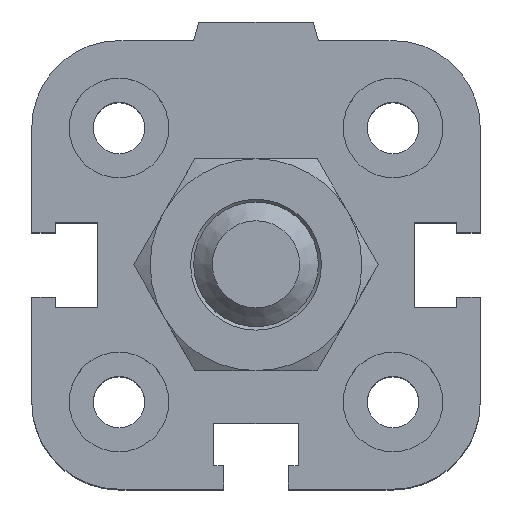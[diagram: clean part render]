
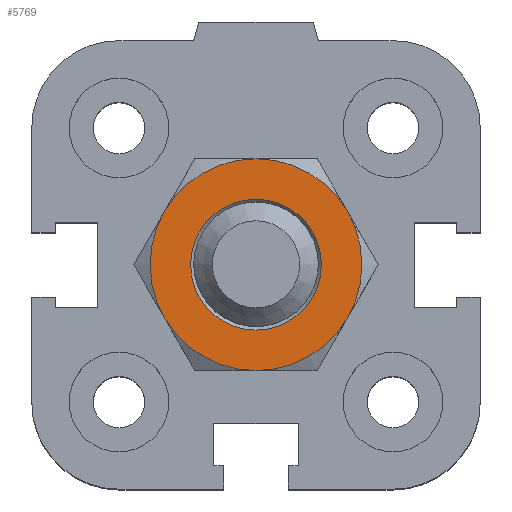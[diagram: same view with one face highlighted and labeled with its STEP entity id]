
A CAD part, top view. The second image highlights one B-rep face of the part: STEP entity #5769.
In plain terms, the highlighted planar face has unit normal (0, 0, 1).
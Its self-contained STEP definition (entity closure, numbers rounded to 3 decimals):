
#5335=CARTESIAN_POINT('',(7.361,4.25,6.));
#5336=VERTEX_POINT('',#5335);
#5350=CARTESIAN_POINT('',(0.,8.5,6.));
#5351=VERTEX_POINT('',#5350);
#5365=CARTESIAN_POINT('',(0.0,0.0,6.));
#5366=DIRECTION('',(0.0,0.0,1.));
#5367=DIRECTION('',(-0.866,-0.5,0.0));
#5368=AXIS2_PLACEMENT_3D('',#5365,#5366,#5367);
#5369=CIRCLE('',#5368,8.5);
#5370=EDGE_CURVE('',#5336,#5351,#5369,.T.);
#5382=CARTESIAN_POINT('',(7.361,-4.25,6.));
#5383=VERTEX_POINT('',#5382);
#5410=CARTESIAN_POINT('',(0.0,0.0,6.));
#5411=DIRECTION('',(0.0,0.0,1.));
#5412=DIRECTION('',(-0.866,-0.5,0.0));
#5413=AXIS2_PLACEMENT_3D('',#5410,#5411,#5412);
#5414=CIRCLE('',#5413,8.5);
#5415=EDGE_CURVE('',#5383,#5336,#5414,.T.);
#5427=CARTESIAN_POINT('',(0.,-8.5,6.));
#5428=VERTEX_POINT('',#5427);
#5455=CARTESIAN_POINT('',(0.0,0.0,6.));
#5456=DIRECTION('',(0.0,0.0,1.));
#5457=DIRECTION('',(-0.866,-0.5,0.0));
#5458=AXIS2_PLACEMENT_3D('',#5455,#5456,#5457);
#5459=CIRCLE('',#5458,8.5);
#5460=EDGE_CURVE('',#5428,#5383,#5459,.T.);
#5485=CARTESIAN_POINT('',(-7.361,-4.25,6.));
#5486=VERTEX_POINT('',#5485);
#5487=CARTESIAN_POINT('',(0.0,0.0,6.));
#5488=DIRECTION('',(0.0,0.0,1.));
#5489=DIRECTION('',(-0.866,-0.5,0.0));
#5490=AXIS2_PLACEMENT_3D('',#5487,#5488,#5489);
#5491=CIRCLE('',#5490,8.5);
#5492=EDGE_CURVE('',#5486,#5428,#5491,.T.);
#5530=CARTESIAN_POINT('',(-7.361,4.25,6.));
#5531=VERTEX_POINT('',#5530);
#5532=CARTESIAN_POINT('',(0.0,0.0,6.));
#5533=DIRECTION('',(0.0,0.0,1.));
#5534=DIRECTION('',(-0.866,-0.5,0.0));
#5535=AXIS2_PLACEMENT_3D('',#5532,#5533,#5534);
#5536=CIRCLE('',#5535,8.5);
#5537=EDGE_CURVE('',#5531,#5486,#5536,.T.);
#5575=CARTESIAN_POINT('',(0.0,0.0,6.));
#5576=DIRECTION('',(0.0,0.0,1.));
#5577=DIRECTION('',(-0.866,-0.5,0.0));
#5578=AXIS2_PLACEMENT_3D('',#5575,#5576,#5577);
#5579=CIRCLE('',#5578,8.5);
#5580=EDGE_CURVE('',#5351,#5531,#5579,.T.);
#5705=CARTESIAN_POINT('',(5.25,0.0,6.));
#5706=VERTEX_POINT('',#5705);
#5707=CARTESIAN_POINT('',(0.0,0.0,6.));
#5708=DIRECTION('',(0.0,0.0,-1.0));
#5709=DIRECTION('',(1.0,0.0,0.0));
#5710=AXIS2_PLACEMENT_3D('',#5707,#5708,#5709);
#5711=CIRCLE('',#5710,5.25);
#5712=EDGE_CURVE('',#5706,#5706,#5711,.T.);
#5753=CARTESIAN_POINT('',(0.,0.0,6.));
#5754=DIRECTION('',(0.0,0.0,1.0));
#5755=DIRECTION('',(1.0,0.0,0.0));
#5756=AXIS2_PLACEMENT_3D('',#5753,#5754,#5755);
#5757=PLANE('',#5756);
#5758=ORIENTED_EDGE('',*,*,#5580,.T.);
#5759=ORIENTED_EDGE('',*,*,#5537,.T.);
#5760=ORIENTED_EDGE('',*,*,#5492,.T.);
#5761=ORIENTED_EDGE('',*,*,#5460,.T.);
#5762=ORIENTED_EDGE('',*,*,#5415,.T.);
#5763=ORIENTED_EDGE('',*,*,#5370,.T.);
#5764=EDGE_LOOP('',(#5758,#5759,#5760,#5761,#5762,#5763));
#5765=FACE_OUTER_BOUND('',#5764,.T.);
#5766=ORIENTED_EDGE('',*,*,#5712,.T.);
#5767=EDGE_LOOP('',(#5766));
#5768=FACE_BOUND('',#5767,.T.);
#5769=ADVANCED_FACE('',(#5765,#5768),#5757,.T.);
